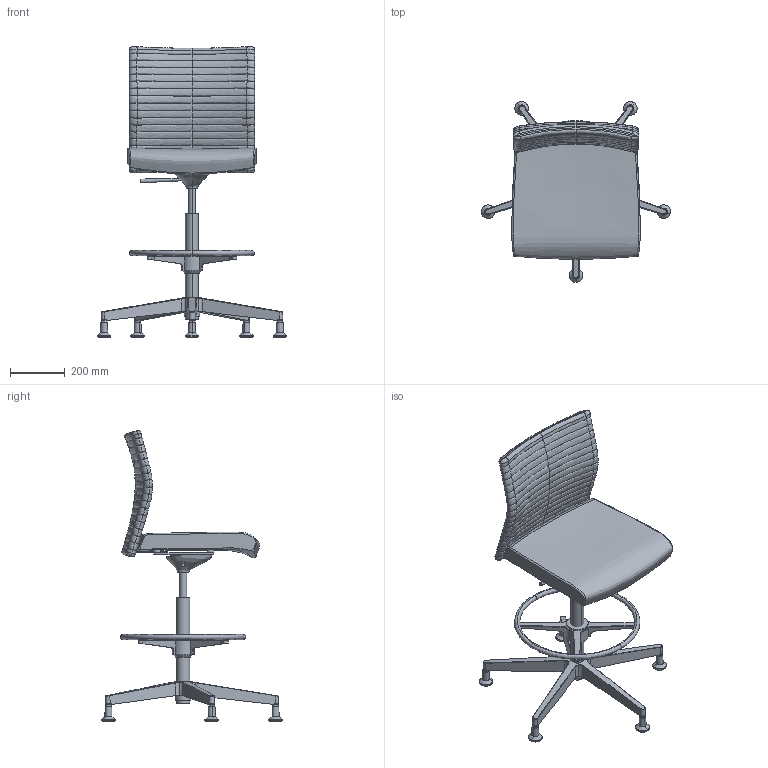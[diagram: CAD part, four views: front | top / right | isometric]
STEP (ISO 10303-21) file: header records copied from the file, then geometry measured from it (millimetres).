
FILE_DESCRIPTION(/* description */ (''),/* implementation_level */ '2;1');
FILE_NAME(/* name */ 'EL0DBD~1',/* time_stamp */ '2017-07-18T23:33:20+02:00',/* author */ (''),/* organization */ (''),/* preprocessor_version */ 'ST-DEVELOPER v15',/* originating_system */ '',/* authorisation */ '');
FILE_SCHEMA (('CONFIG_CONTROL_DESIGN'));
Length unit declared in the file: millimetre
Products named in the file (1): Document
Bounding box: 694.78 x 663.25 x 1066.65 mm (x, y, z)
Volume: 14400552.5 mm3; surface area: 1654753.9 mm2
Topology: 11 solids, 27 shells, 429 faces, 1002 edges, 599 vertices
Faces by surface type: bspline 378, plane 51
Entity records: 29069 total; most frequent: CARTESIAN_POINT 23222, ORIENTED_EDGE 1824, EDGE_CURVE 995, B_SPLINE_CURVE_WITH_KNOTS 609, VERTEX_POINT 593, EDGE_LOOP 431, ADVANCED_FACE 429, FACE_OUTER_BOUND 429
